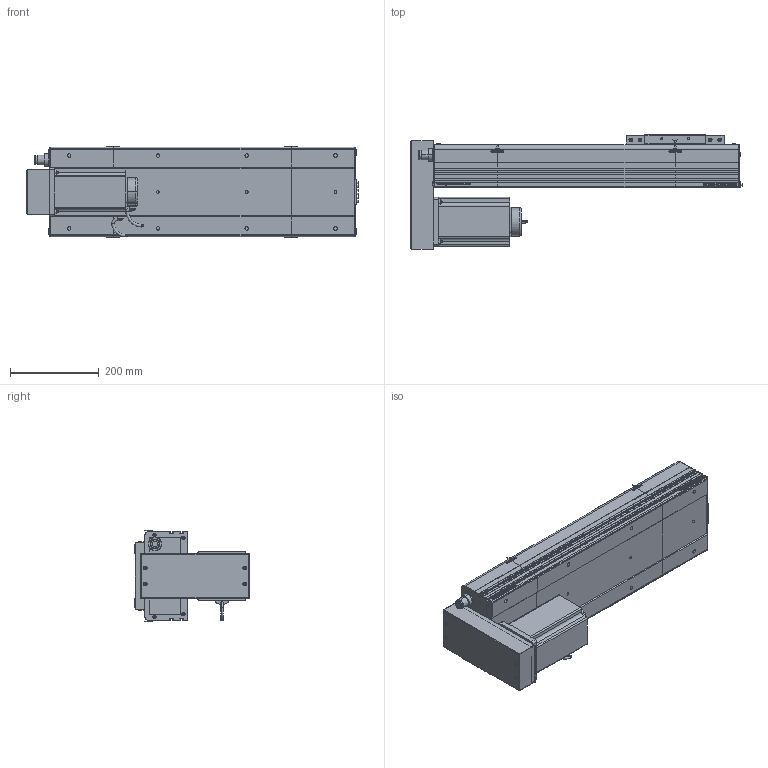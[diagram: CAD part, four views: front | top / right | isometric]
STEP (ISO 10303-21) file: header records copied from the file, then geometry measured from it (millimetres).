
FILE_DESCRIPTION (( 'STEP AP214' ), '1' );
FILE_NAME ('D20 CSH BM S400.STEP', '2010-06-30T07:57:58', ( 'Conseil Régional Haute-Normandie' ), ( 'Conseil Régional Haute-Normandie' ), 'SwSTEP 2.0', 'SolidWorks 2010', '' );
FILE_SCHEMA (( 'AUTOMOTIVE_DESIGN' ));
Length unit declared in the file: millimetre
Products named in the file (31): Conecteur2_Default; Support Chariot D20_Default; Chariot D20_Default; codeur 110BLDC170A-630x; corps 110BLDC170A-630x; avant 110BLDC170A-630x; Moteur motionking 110BLDC170A-640x; Glissiere_Default; Conecteur_Default; Support moteur BM D20_Default; Plaque de Bout Head BM D20_Default; Head BM D20_Default; clavette; Couvercle Head BM_Default; Corp Head BM D20_Default; vis M5 L47_Default; Plaque De Serrage Head BM D20_Default; vis M5 L15_Default; Cache Moteur BM D20_Default; vis M5 L30_Default; ecrou_Default; D20 CSH BM S400; Couvercle_Default; Corp Tail D20_Default; Tail D20_Default; Corp D20 S400_Default; Plaque De Serrage D20_Default; Plaque de Bout Tail D20_Default; Couvercle S400_Default; Corp S400_Default
Assembly tree (58 placements, depth 4):
  D20 CSH BM S400
    Corp D20 S400_Default
      Corp S400_Default
      Couvercle S400_Default
    Tail D20_Default
      vis M5 L15_Default  x6
      Plaque de Bout Tail D20_Default
      Couvercle_Default
      Corp Tail D20_Default
      Plaque De Serrage D20_Default
    Head BM D20_Default
      vis M5 L47_Default  x4
      Support moteur BM D20_Default
      vis M5 L15_Default  x6
      ecrou_Default  x4
      Moteur motionking 110BLDC170A-640x
        Conecteur2_Default
        codeur 110BLDC170A-630x
        Conecteur_Default
        avant 110BLDC170A-630x
        clavette
        corps 110BLDC170A-630x
      vis M5 L30_Default  x4
      Plaque De Serrage Head BM D20_Default
      Couvercle Head BM_Default
      Corp Head BM D20_Default
      Plaque de Bout Head BM D20_Default
      Cache Moteur BM D20_Default
    Chariot D20_Default
      Support Chariot D20_Default
      vis M5 L15_Default  x8
      Chariot D20_Default
      Glissiere_Default
Bounding box: 747.7 x 257.5 x 206 mm (x, y, z)
Volume: 7349783.1 mm3; surface area: 1406829.5 mm2
Topology: 95 solids, 95 shells, 3490 faces, 8797 edges, 5733 vertices
Faces by surface type: plane 1965, bspline 806, cylinder 581, torus 79, cone 59
Entity records: 156025 total; most frequent: CARTESIAN_POINT 81730, ORIENTED_EDGE 14742, DIRECTION 10955, EDGE_CURVE 7371, VERTEX_POINT 4881, VECTOR 4847, LINE 4847, EDGE_LOOP 3132
